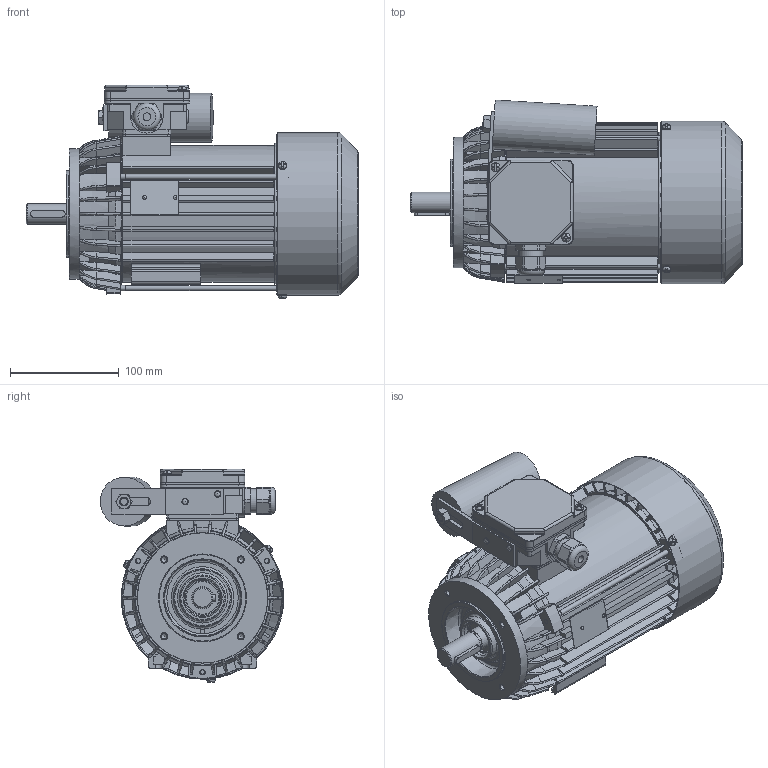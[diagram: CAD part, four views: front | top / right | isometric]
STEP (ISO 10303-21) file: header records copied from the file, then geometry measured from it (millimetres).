
FILE_DESCRIPTION( ( 'Unknown' ), '1' );
FILE_NAME( 'G:/Poczta Tk-1/STP/w.m.80/SEh80/SEKh80-.C2.stp', 'Unknown', ( 'K. Szlosek' ), ( 'BESEL S.A.' ), 'PSStep 17.0.49', 'Unknown', ' ' );
FILE_SCHEMA( ( 'AUTOMOTIVE_DESIGN { 1 0 10303 214 1 1 1 1 }' ) );
Length unit declared in the file: millimetre
Products named in the file (33): Assem1; K1-1257 Kadłub S(E,M)h80-C i D; K2-2027 Tarcza łożyskowa P S(E,M)h80-.A,C; Wkręt samogwintujący M4x16; Wkręt samogwintujący M4x10; K4-2999 Uchwyt kondensatora; K3-7039 wał standard Sh80-C; K4-4489 Osłona przewietrznika Sh80,90-A,C; K4-2320 Uszczelka nr 1 Sh71,80; K4-2820 Uszczelka nr 2 Sh71,80; K2-0860 Pokrywka skrzynki zaciskowej; K2-1131 Podstawa skrzynki zaciskowej jednofazowa; Wpust A6x6x32; K2-1715 Przewietrznik; K4-0898 Tulejka uszczelniająca; Kondensator zb 25-31,5uF Comar; nakrętka M8; Nit 4x12 po skróceniu; Nitokołek A 2x6; Łożysko 6204; Śruba ściągająca E_M5x168; Tabliczka znamionowa 32x44; K1-1261 Tarcza kołnierzowa B14_2 w.m. 80; Dławnica M20x1,5
Assembly tree (49 placements, depth 2):
  Assem1
    K1-1257 Kadłub S(E,M)h80-C i D
    K2-2027 Tarcza łożyskowa P S(E,M)h80-.A,C
    Wkręt samogwintujący M4x16  x2
    Wkręt samogwintujący M4x10  x3
    K4-2999 Uchwyt kondensatora
    K3-7039 wał standard Sh80-C
    K4-4489 Osłona przewietrznika Sh80,90-A,C
    K4-2320 Uszczelka nr 1 Sh71,80
    K4-2820 Uszczelka nr 2 Sh71,80
    K2-0860 Pokrywka skrzynki zaciskowej
    K2-1131 Podstawa skrzynki zaciskowej jednofazowa
    Wpust A6x6x32
    K2-1715 Przewietrznik
    K4-0898 Tulejka uszczelniająca
    Kondensator zb 25-31,5uF Comar
    nakrętka M8
    Nit 4x12 po skróceniu  x2
    Nitokołek A 2x6  x2
    Łożysko 6204  x2
    Łożysko 6204  x2
    Łożysko 6204  x2
    Łożysko 6204  x2
    Łożysko 6204  x2
    Łożysko 6204  x2
    Łożysko 6204  x2
    Łożysko 6204  x2
    Łożysko 6204  x2
    Łożysko 6204  x2
    Śruba ściągająca E_M5x168  x3
    Tabliczka znamionowa 32x44
    K1-1261 Tarcza kołnierzowa B14_2 w.m. 80
    Dławnica M20x1,5
Bounding box: 305.8 x 169.24 x 196.68 mm (x, y, z)
Volume: 1036509.1 mm3; surface area: 602606.9 mm2
Topology: 49 solids, 65 shells, 2639 faces, 7428 edges, 4766 vertices
Faces by surface type: plane 1259, cylinder 802, bspline 285, cone 142, torus 115, sphere 36
Full cylindrical faces by diameter (mm): 2 x2, 2.4 x2, 3 x2, 3.7 x11, 4 x8, 4.2 x3, 4.3 x2, 4.5 x3, 4.6 x3, 4.8 x4, 5 x11, 5.5 x3, 6 x2, 6.5 x1, 6.647 x1, 7 x1, 8 x10, 10 x2, 18.376 x1, 18.38 x1, 18.6 x1, 19 x1, 19.3 x1, 19.5 x2, 19.9 x1, 20 x5, 20.3 x2, 20.4 x4, 22.3 x1, 25 x1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
Entity records: 124712 total; most frequent: CARTESIAN_POINT 44934, ORIENTED_EDGE 13060, DIRECTION 12066, EDGE_CURVE 6530, AXIS2_PLACEMENT_3D 4432, VERTEX_POINT 4384, LINE 3202, VECTOR 3202
